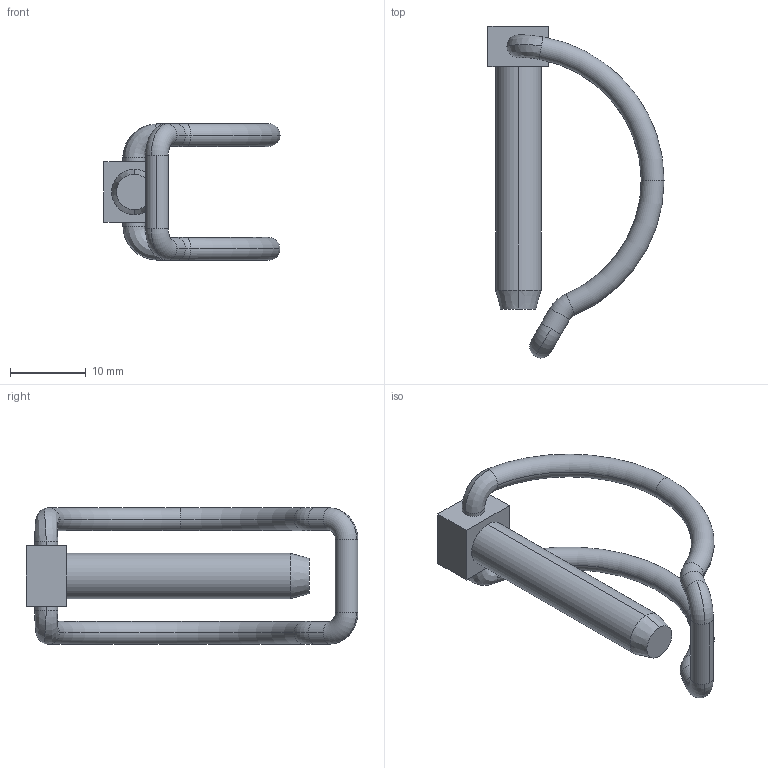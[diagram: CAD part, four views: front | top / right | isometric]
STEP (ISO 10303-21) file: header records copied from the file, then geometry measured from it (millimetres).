
FILE_DESCRIPTION (( 'STEP AP203' ), '1' );
FILE_NAME ('33320.W0061.step', '2025-02-04T13:40:10', ( '' ), ( '' ), 'SwSTEP 2.0', 'SolidWorks 2019', '' );
FILE_SCHEMA (( 'CONFIG_CONTROL_DESIGN' ));
Length unit declared in the file: millimetre
Products named in the file (3): 33320.W0061; part1_33320.W0061; Part5_33320.W0061
Assembly tree (2 placements, depth 2):
  33320.W0061
    part1_33320.W0061
    Part5_33320.W0061
Bounding box: 23.23 x 43.78 x 18 mm (x, y, z)
Volume: 2116.3 mm3; surface area: 2217.3 mm2
Topology: 2 solids, 2 shells, 43 faces, 98 edges, 60 vertices
Faces by surface type: cylinder 14, torus 14, plane 9, bspline 4, cone 2
Entity records: 1827 total; most frequent: CARTESIAN_POINT 518, DIRECTION 248, ORIENTED_EDGE 196, AXIS2_PLACEMENT_3D 110, EDGE_CURVE 98, CIRCLE 66, VERTEX_POINT 60, EDGE_LOOP 46
